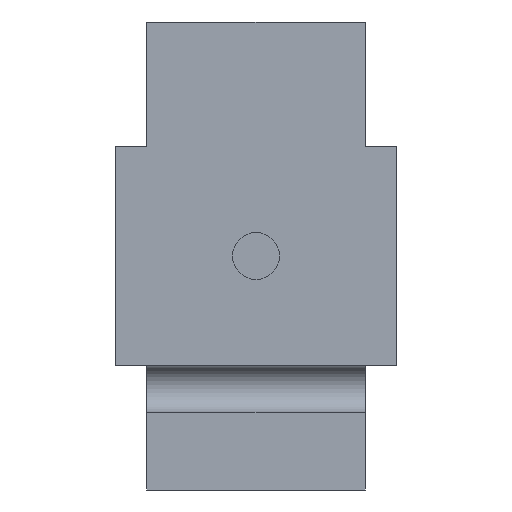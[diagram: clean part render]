
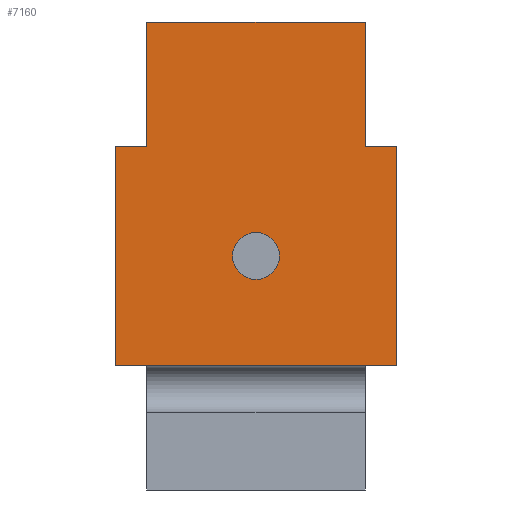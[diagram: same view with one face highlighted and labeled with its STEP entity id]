
A CAD part, left-side view. The second image highlights one B-rep face of the part: STEP entity #7160.
In plain terms, the highlighted planar face has unit normal (-1, 0, 0).
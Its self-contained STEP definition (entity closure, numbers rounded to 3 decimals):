
#5=DIRECTION('',(0.,0.,1.));
#6=VECTOR('',#5,8.);
#7=CARTESIAN_POINT('',(-15.,-7.,7.));
#8=LINE('',#7,#6);
#63=DIRECTION('',(0.,1.,0.));
#64=VECTOR('',#63,2.);
#65=CARTESIAN_POINT('',(-15.,-9.,7.));
#66=LINE('',#65,#64);
#76=DIRECTION('',(0.,0.,1.));
#77=VECTOR('',#76,14.);
#78=CARTESIAN_POINT('',(-15.,-9.,-7.));
#79=LINE('',#78,#77);
#151=DIRECTION('',(0.,-1.,0.));
#152=VECTOR('',#151,18.);
#153=CARTESIAN_POINT('',(-15.,9.,-7.));
#154=LINE('',#153,#152);
#358=DIRECTION('',(0.,1.,0.));
#359=VECTOR('',#358,14.);
#360=CARTESIAN_POINT('',(-15.,-7.,15.));
#361=LINE('',#360,#359);
#447=CARTESIAN_POINT('',(-15.,0.,0.));
#448=DIRECTION('',(-1.,0.,0.));
#449=DIRECTION('',(0.,1.,0.));
#450=AXIS2_PLACEMENT_3D('',#447,#448,#449);
#452=CARTESIAN_POINT('',(-15.,0.,0.));
#453=DIRECTION('',(-1.,0.,0.));
#454=DIRECTION('',(0.,-1.,0.));
#455=AXIS2_PLACEMENT_3D('',#452,#453,#454);
#475=DIRECTION('',(0.,0.,1.));
#476=VECTOR('',#475,14.);
#477=CARTESIAN_POINT('',(-15.,9.,-7.));
#478=LINE('',#477,#476);
#567=DIRECTION('',(0.,0.,1.));
#568=VECTOR('',#567,8.);
#569=CARTESIAN_POINT('',(-15.,7.,7.));
#570=LINE('',#569,#568);
#575=DIRECTION('',(0.,1.,0.));
#576=VECTOR('',#575,2.);
#577=CARTESIAN_POINT('',(-15.,7.,7.));
#578=LINE('',#577,#576);
#6354=CARTESIAN_POINT('',(-15.,-7.,15.));
#6356=VERTEX_POINT('',#6354);
#6376=CARTESIAN_POINT('',(-15.,7.,15.));
#6378=VERTEX_POINT('',#6376);
#6680=CARTESIAN_POINT('',(-15.,7.,7.));
#6682=VERTEX_POINT('',#6680);
#6686=CARTESIAN_POINT('',(-15.,9.,-7.));
#6687=CARTESIAN_POINT('',(-15.,9.,7.));
#6688=VERTEX_POINT('',#6686);
#6689=VERTEX_POINT('',#6687);
#6710=CARTESIAN_POINT('',(-15.,-9.,-7.));
#6711=CARTESIAN_POINT('',(-15.,-9.,7.));
#6712=VERTEX_POINT('',#6710);
#6713=VERTEX_POINT('',#6711);
#6714=CARTESIAN_POINT('',(-15.,-7.,7.));
#6716=VERTEX_POINT('',#6714);
#6744=CARTESIAN_POINT('',(-15.,1.5,0.));
#6745=CARTESIAN_POINT('',(-15.,-1.5,0.));
#6746=VERTEX_POINT('',#6744);
#6747=VERTEX_POINT('',#6745);
#7136=CARTESIAN_POINT('',(-15.,-7.,-7.));
#7137=DIRECTION('',(-1.,0.,0.));
#7138=DIRECTION('',(0.,0.,1.));
#7139=AXIS2_PLACEMENT_3D('',#7136,#7137,#7138);
#7140=PLANE('',#7139);
#7141=ORIENTED_EDGE('',*,*,#6793,.F.);
#7142=ORIENTED_EDGE('',*,*,#6827,.F.);
#7143=ORIENTED_EDGE('',*,*,#6914,.F.);
#7145=ORIENTED_EDGE('',*,*,#7144,.T.);
#7147=ORIENTED_EDGE('',*,*,#7146,.F.);
#7149=ORIENTED_EDGE('',*,*,#7148,.T.);
#7150=ORIENTED_EDGE('',*,*,#7104,.F.);
#7151=ORIENTED_EDGE('',*,*,#6755,.F.);
#7152=EDGE_LOOP('',(#7141,#7142,#7143,#7145,#7147,#7149,#7150,#7151));
#7153=FACE_OUTER_BOUND('',#7152,.F.);
#7155=ORIENTED_EDGE('',*,*,#7154,.T.);
#7157=ORIENTED_EDGE('',*,*,#7156,.T.);
#7158=EDGE_LOOP('',(#7155,#7157));
#7159=FACE_BOUND('',#7158,.F.);
#451=CIRCLE('',#450,1.5);
#456=CIRCLE('',#455,1.5);
#6755=EDGE_CURVE('',#6716,#6356,#8,.T.);
#6793=EDGE_CURVE('',#6713,#6716,#66,.T.);
#6827=EDGE_CURVE('',#6712,#6713,#79,.T.);
#6914=EDGE_CURVE('',#6688,#6712,#154,.T.);
#7104=EDGE_CURVE('',#6356,#6378,#361,.T.);
#7144=EDGE_CURVE('',#6688,#6689,#478,.T.);
#7146=EDGE_CURVE('',#6682,#6689,#578,.T.);
#7148=EDGE_CURVE('',#6682,#6378,#570,.T.);
#7154=EDGE_CURVE('',#6746,#6747,#451,.T.);
#7156=EDGE_CURVE('',#6747,#6746,#456,.T.);
#7160=ADVANCED_FACE('',(#7153,#7159),#7140,.T.);
